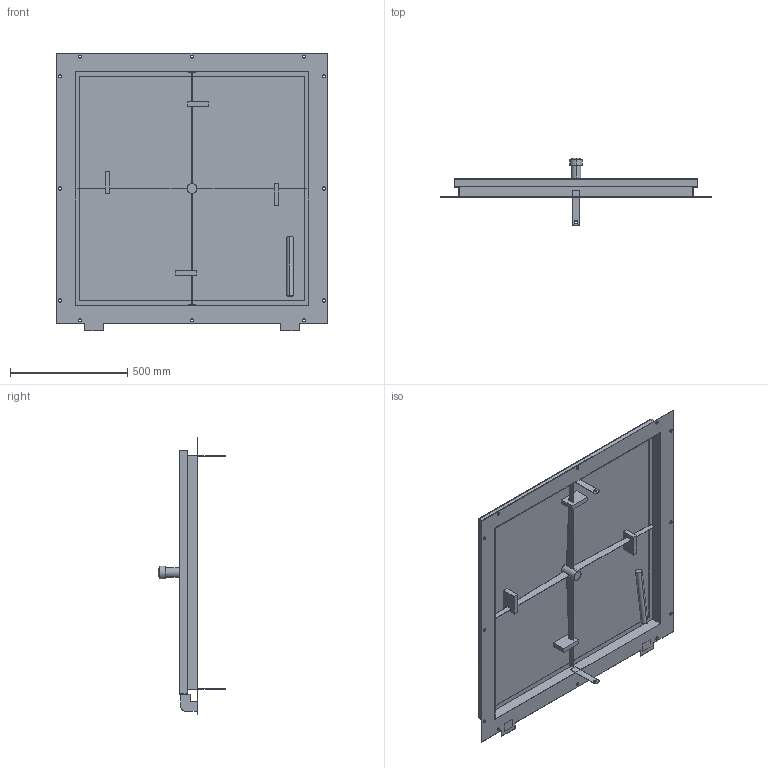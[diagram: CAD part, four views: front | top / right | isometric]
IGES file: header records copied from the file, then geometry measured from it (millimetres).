
Start section:  PTC IGES file: 017_000112.igs
Global section: file name: 017_000112.igs; native system: Creo Parametric by Parametric Technology Corporation; preprocessor: 2017170; author: wj; organization: Unknown; date: 20180914.095507; units: millimetre
Bounding box: 1155 x 289 x 1185 mm (x, y, z)
Surface area: 3994303.9 mm2 (no closed solid volume)
Topology: 0 solids, 0 shells, 174 faces, 890 edges, 888 vertices
Faces by surface type: bspline 132, revolution 42
